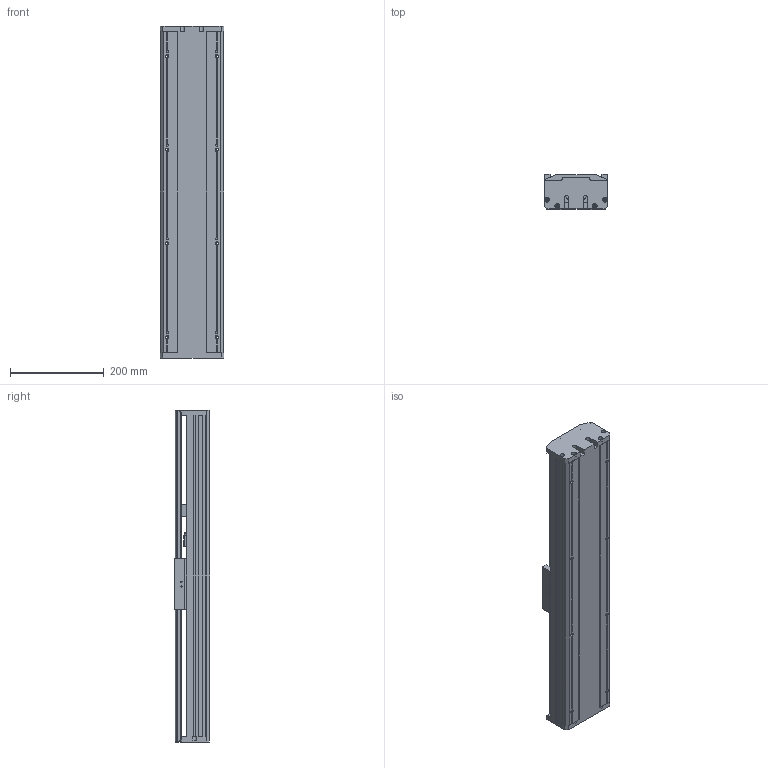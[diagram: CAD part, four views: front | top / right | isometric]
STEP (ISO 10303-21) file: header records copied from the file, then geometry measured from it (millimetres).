
FILE_DESCRIPTION(/* description */ (''),/* implementation_level */ '2;1');
FILE_NAME(/* name */ 'TKA136-FI-250_asm1.stp',/* time_stamp */ '2016-05-07T10:17:02+08:00',/* author */ (''),/* organization */ (''),/* preprocessor_version */ 'ST-DEVELOPER v15',/* originating_system */ 'SIEMENS PLM Software NX 8.5',/* authorisation */ '');
FILE_SCHEMA (('AUTOMOTIVE_DESIGN { 1 0 10303 214 3 1 1 1 }'));
Length unit declared in the file: millimetre
Products named in the file (3): 100-02; 100-01; TKA136-FI-250_asm1
Assembly tree (2 placements, depth 2):
  TKA136-FI-250_asm1
    100-01
    100-02
Bounding box: 136 x 75 x 709 mm (x, y, z)
Volume: 2389469.8 mm3; surface area: 874005.8 mm2
Topology: 2 solids, 12 shells, 919 faces, 2594 edges, 1699 vertices
Faces by surface type: cylinder 437, plane 432, cone 50
Full cylindrical faces by diameter (mm): 2.5 x4, 3.3 x8, 4.2 x8, 4.5 x20, 5 x6, 5.5 x14, 8 x20, 10 x9, 10.5 x2, 11.6 x1, 12 x8, 15 x3, 16 x5, 24 x3, 26 x1, 28 x1, 46 x1
Entity records: 31385 total; most frequent: CARTESIAN_POINT 7993, DIRECTION 4814, ORIENTED_EDGE 4744, EDGE_CURVE 2372, AXIS2_PLACEMENT_3D 1784, VERTEX_POINT 1651, LINE 1246, VECTOR 1246
